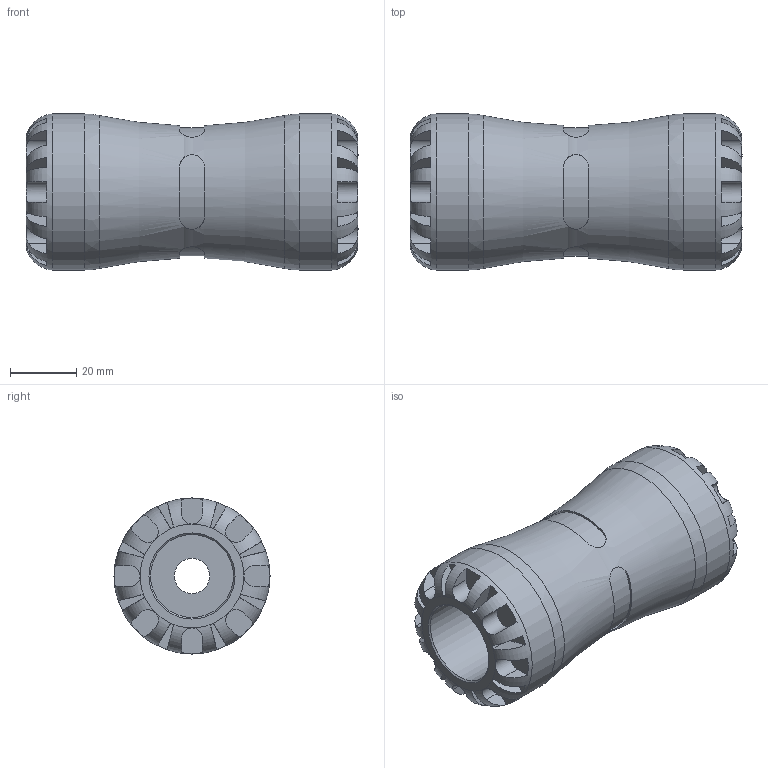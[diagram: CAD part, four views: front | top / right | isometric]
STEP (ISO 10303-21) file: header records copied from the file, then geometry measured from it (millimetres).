
FILE_DESCRIPTION(/* description */ ('PLASSON COUPLER METRIC TO IMPERIAL 25X1/2" SERIES 1'),/* implementation_level */ '2;1');
FILE_NAME(/* name */ 'C:\Dropbox\KIMPROJECTS-Inventor\99-16-3568-Processing\1001M\1001M6025005.ipt.stp',/* time_stamp */ '2017-01-22T10:47:14+02:00',/* author */ ('KIM'),/* organization */ (''),/* preprocessor_version */ 'ST-DEVELOPER v15.6',/* originating_system */ 'Autodesk Inventor 2015',/* authorisation */ '');
FILE_SCHEMA (('AUTOMOTIVE_DESIGN { 1 0 10303 214 3 1 1 }'));
Length unit declared in the file: millimetre
Products named in the file (1): 1001M6025005
Bounding box: 100 x 47 x 47 mm (x, y, z)
Volume: 115534.4 mm3; surface area: 24404.3 mm2
Topology: 1 solids, 1 shells, 164 faces, 419 edges, 262 vertices
Faces by surface type: plane 108, cylinder 49, torus 3, cone 2, bspline 2
Full cylindrical faces by diameter (mm): 10.583 x1, 12.7 x1, 25 x1, 47 x2
Entity records: 6428 total; most frequent: CARTESIAN_POINT 2459, ORIENTED_EDGE 808, DIRECTION 762, EDGE_CURVE 404, AXIS2_PLACEMENT_3D 309, VERTEX_POINT 258, EDGE_LOOP 182, STYLED_ITEM 165
